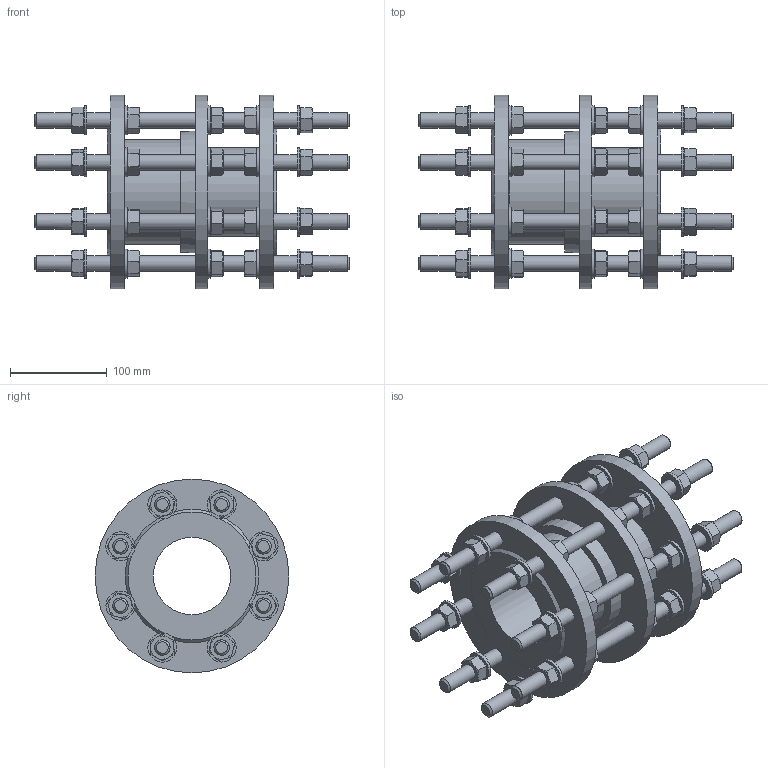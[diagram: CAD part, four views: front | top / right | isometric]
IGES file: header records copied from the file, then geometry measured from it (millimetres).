
Start section: SolidWorks IGES file using analytic representation for surfaces
Global section: file name: \\avksan2\techshare\PBM outline export from Enovia\O_265_910_DN80_1XXXXX00_L=175_REV01.igs; native system: SolidWorks 2022; preprocessor: SolidWorks 2022; author: pbm; date: 241011.100656; units: millimetre
Bounding box: 325 x 200 x 200 mm (x, y, z)
Surface area: 406993.7 mm2 (no closed solid volume)
Topology: 0 solids, 0 shells, 1035 faces, 4306 edges, 4153 vertices
Faces by surface type: bspline 640, revolution 395
